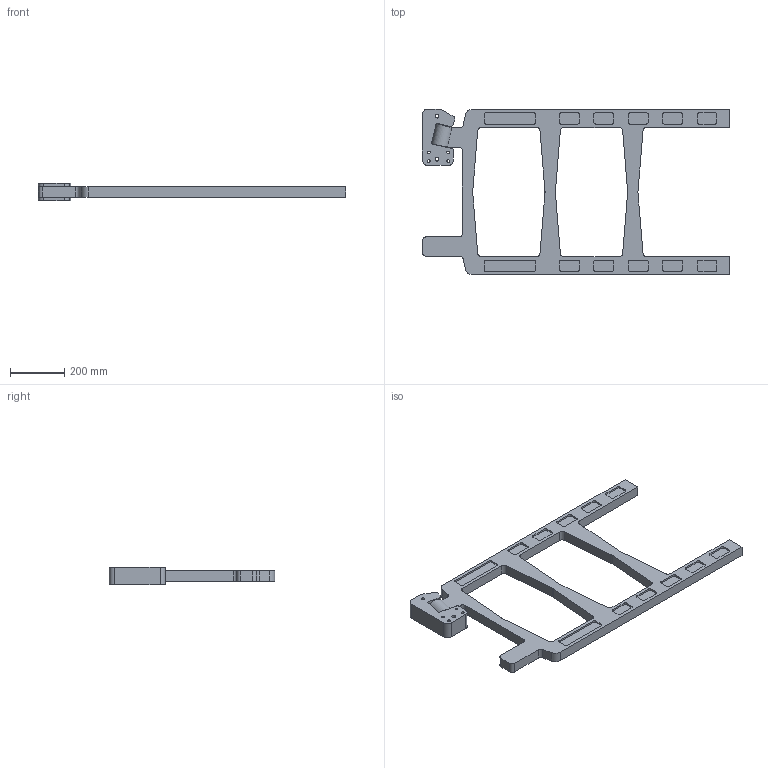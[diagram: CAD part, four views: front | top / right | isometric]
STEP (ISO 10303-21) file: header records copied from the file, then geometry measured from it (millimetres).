
FILE_DESCRIPTION(/* description */ (''),/* implementation_level */ '2;1');
FILE_NAME(/* name */ 'D:\VDV Techniek\Documents\Inventor\_ISP_Products\Safety Gate nagetekend model\UDG-37_Safety_Gate.stp',/* time_stamp */ '2017-06-06T22:18:29+02:00',/* author */ ('VDV Techniek'),/* organization */ (''),/* preprocessor_version */ 'ST-DEVELOPER v15.2',/* originating_system */ 'Autodesk Inventor 2014',/* authorisation */ '');
FILE_SCHEMA (('AUTOMOTIVE_DESIGN { 1 0 10303 214 3 1 1 }'));
Length unit declared in the file: millimetre
Products named in the file (3): Hinge; Blade UDG-37; UDG-37_Safety_Gate
Bounding box: 1132.97 x 610.03 x 64 mm (x, y, z)
Volume: 9107802.2 mm3; surface area: 861110.7 mm2
Topology: 2 solids, 2 shells, 302 faces, 812 edges, 540 vertices
Faces by surface type: plane 166, cylinder 136
Full cylindrical faces by diameter (mm): 10 x4, 13.21 x2, 25.65 x3
Entity records: 9572 total; most frequent: DIRECTION 1689, CARTESIAN_POINT 1650, ORIENTED_EDGE 1606, EDGE_CURVE 803, AXIS2_PLACEMENT_3D 579, VERTEX_POINT 540, LINE 531, VECTOR 531
